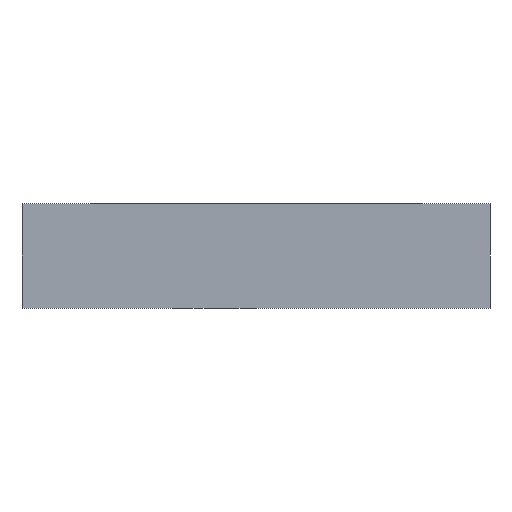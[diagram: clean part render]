
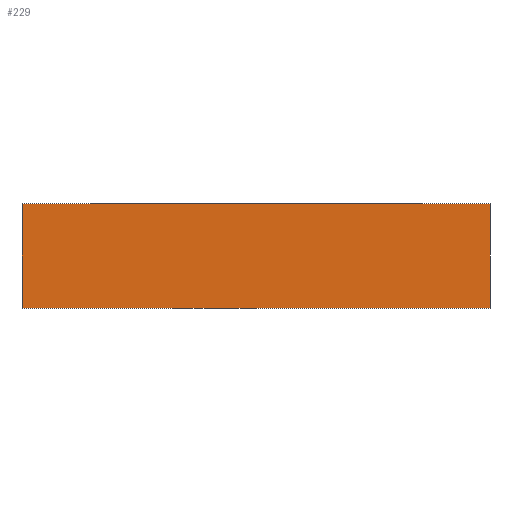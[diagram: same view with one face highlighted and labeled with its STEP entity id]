
A CAD part, left-side view. The second image highlights one B-rep face of the part: STEP entity #229.
In plain terms, the highlighted planar face has unit normal (-1, 0, 0).
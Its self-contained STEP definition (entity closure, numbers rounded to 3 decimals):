
#187 = EDGE_CURVE ( 'NONE', #188, #227, #834, .T. ) ;
#188 = VERTEX_POINT ( 'NONE', #830 ) ;
#189 = ORIENTED_EDGE ( 'NONE', *, *, #190, .F. ) ;
#190 = EDGE_CURVE ( 'NONE', #191, #188, #829, .T. ) ;
#191 = VERTEX_POINT ( 'NONE', #825 ) ;
#192 = ORIENTED_EDGE ( 'NONE', *, *, #216, .T. ) ;
#216 = EDGE_CURVE ( 'NONE', #191, #226, #864, .T. ) ;
#226 = VERTEX_POINT ( 'NONE', #900 ) ;
#227 = VERTEX_POINT ( 'NONE', #895 ) ;
#228 = ORIENTED_EDGE ( 'NONE', *, *, #187, .F. ) ;
#229 = ADVANCED_FACE ( 'NONE', ( #894 ), #893, .F. ) ;
#230 = ORIENTED_EDGE ( 'NONE', *, *, #231, .T. ) ;
#231 = EDGE_CURVE ( 'NONE', #226, #227, #888, .T. ) ;
#289 = EDGE_LOOP ( 'NONE', ( #230, #228, #189, #192 ) ) ;
#825 = CARTESIAN_POINT ( 'NONE',  ( 0., 1.9, -7. ) ) ;
#826 = DIRECTION ( 'NONE',  ( 0., 0., 1. ) ) ;
#827 = VECTOR ( 'NONE', #826, 1000. ) ;
#828 = CARTESIAN_POINT ( 'NONE',  ( 0., 1.9, -7. ) ) ;
#829 = LINE ( 'NONE', #828, #827 ) ;
#830 = CARTESIAN_POINT ( 'NONE',  ( 0., 1.9, 10. ) ) ;
#831 = DIRECTION ( 'NONE',  ( 0., -1., 0. ) ) ;
#832 = VECTOR ( 'NONE', #831, 1000. ) ;
#833 = CARTESIAN_POINT ( 'NONE',  ( 0., 1.9, 10. ) ) ;
#834 = LINE ( 'NONE', #833, #832 ) ;
#861 = DIRECTION ( 'NONE',  ( 0., -1., 0. ) ) ;
#862 = VECTOR ( 'NONE', #861, 1000. ) ;
#863 = CARTESIAN_POINT ( 'NONE',  ( 0., 1.9, -7. ) ) ;
#864 = LINE ( 'NONE', #863, #862 ) ;
#885 = DIRECTION ( 'NONE',  ( 0., 0., 1. ) ) ;
#886 = VECTOR ( 'NONE', #885, 1000. ) ;
#887 = CARTESIAN_POINT ( 'NONE',  ( 0., -1.9, -7. ) ) ;
#888 = LINE ( 'NONE', #887, #886 ) ;
#889 = DIRECTION ( 'NONE',  ( 0., 0., -1. ) ) ;
#890 = DIRECTION ( 'NONE',  ( 1., 0., 0. ) ) ;
#891 = CARTESIAN_POINT ( 'NONE',  ( 0., 1.9, -7. ) ) ;
#892 = AXIS2_PLACEMENT_3D ( 'NONE', #891, #890, #889 ) ;
#893 = PLANE ( 'NONE',  #892 ) ;
#894 = FACE_OUTER_BOUND ( 'NONE', #289, .T. ) ;
#895 = CARTESIAN_POINT ( 'NONE',  ( 0., -1.9, 10. ) ) ;
#900 = CARTESIAN_POINT ( 'NONE',  ( 0., -1.9, -7. ) ) ;
